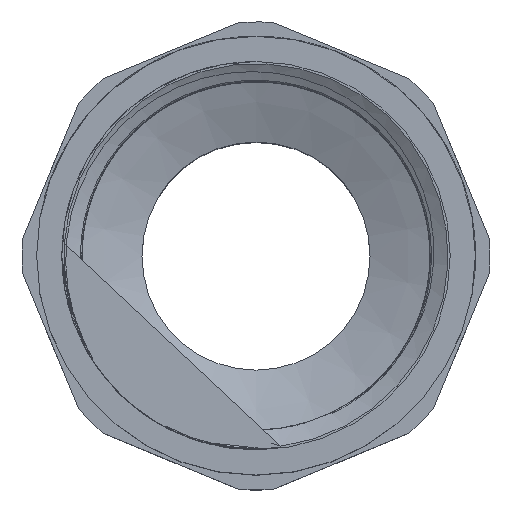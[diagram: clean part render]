
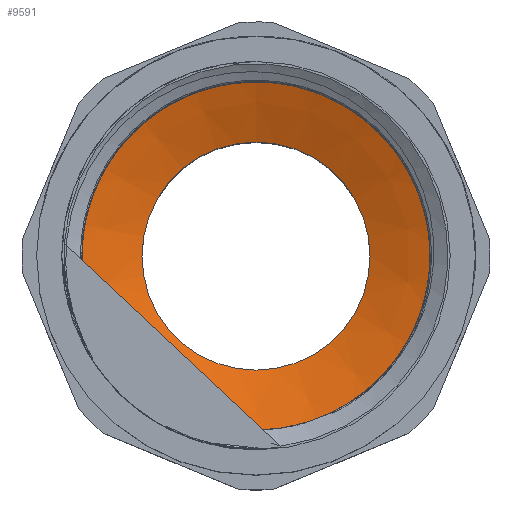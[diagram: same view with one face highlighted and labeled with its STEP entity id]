
A CAD part, top view. The second image highlights one B-rep face of the part: STEP entity #9591.
In plain terms, the highlighted conical face has half-angle 70 degrees and reference radius 13.175 mm.
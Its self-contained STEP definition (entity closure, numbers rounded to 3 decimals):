
#1688=LINE('',#22534,#2219);
#2219=VECTOR('',#11400,13.175);
#2845=FACE_OUTER_BOUND('',#3415,.T.);
#3415=EDGE_LOOP('',(#8931,#8932,#8933,#8934,#8935,#8936));
#3664=CIRCLE('',#10037,9.75);
#3665=CIRCLE('',#10038,9.75);
#3666=CIRCLE('',#10040,16.6);
#3667=CIRCLE('',#10041,16.6);
#4637=VERTEX_POINT('',#22527);
#4638=VERTEX_POINT('',#22529);
#4639=VERTEX_POINT('',#22533);
#4640=VERTEX_POINT('',#22535);
#6082=EDGE_CURVE('',#4638,#4637,#3664,.T.);
#6083=EDGE_CURVE('',#4637,#4638,#3665,.T.);
#6084=EDGE_CURVE('',#4637,#4639,#1688,.T.);
#6085=EDGE_CURVE('',#4640,#4639,#3666,.T.);
#6086=EDGE_CURVE('',#4639,#4640,#3667,.T.);
#8931=ORIENTED_EDGE('',*,*,#6082,.T.);
#8932=ORIENTED_EDGE('',*,*,#6084,.T.);
#8933=ORIENTED_EDGE('',*,*,#6085,.F.);
#8934=ORIENTED_EDGE('',*,*,#6086,.F.);
#8935=ORIENTED_EDGE('',*,*,#6084,.F.);
#8936=ORIENTED_EDGE('',*,*,#6083,.T.);
#9086=CONICAL_SURFACE('',#10039,13.175,1.222);
#9591=ADVANCED_FACE('',(#2845),#9086,.F.);
#10037=AXIS2_PLACEMENT_3D('',#22530,#11394,#11395);
#10038=AXIS2_PLACEMENT_3D('',#22531,#11396,#11397);
#10039=AXIS2_PLACEMENT_3D('',#22532,#11398,#11399);
#10040=AXIS2_PLACEMENT_3D('',#22536,#11401,#11402);
#10041=AXIS2_PLACEMENT_3D('',#22537,#11403,#11404);
#11394=DIRECTION('center_axis',(0.,0.,-1.));
#11395=DIRECTION('ref_axis',(1.,0.,0.));
#11396=DIRECTION('center_axis',(0.,0.,-1.));
#11397=DIRECTION('ref_axis',(1.,0.,0.));
#11398=DIRECTION('center_axis',(0.,0.,1.));
#11399=DIRECTION('ref_axis',(0.,1.,0.));
#11400=DIRECTION('',(0.,-0.94,0.342));
#11401=DIRECTION('center_axis',(0.,0.,-1.));
#11402=DIRECTION('ref_axis',(1.,0.,0.));
#11403=DIRECTION('center_axis',(0.,0.,-1.));
#11404=DIRECTION('ref_axis',(1.,0.,0.));
#22527=CARTESIAN_POINT('',(0.,-9.75,29.007));
#22529=CARTESIAN_POINT('',(0.,9.75,29.007));
#22530=CARTESIAN_POINT('Origin',(0.,0.,29.007));
#22531=CARTESIAN_POINT('Origin',(0.,0.,29.007));
#22532=CARTESIAN_POINT('Origin',(0.,0.,30.253));
#22533=CARTESIAN_POINT('',(0.,-16.6,31.5));
#22534=CARTESIAN_POINT('',(0.,-13.175,30.253));
#22535=CARTESIAN_POINT('',(0.,16.6,31.5));
#22536=CARTESIAN_POINT('Origin',(0.,0.,31.5));
#22537=CARTESIAN_POINT('Origin',(0.,0.,31.5));
